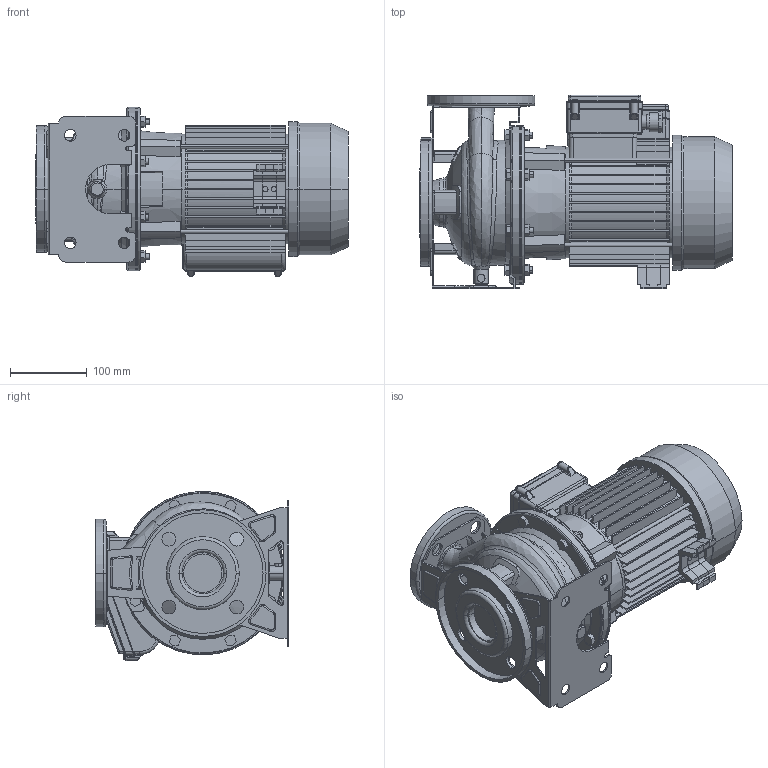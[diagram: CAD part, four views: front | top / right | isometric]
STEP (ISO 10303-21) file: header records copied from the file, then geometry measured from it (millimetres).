
FILE_DESCRIPTION((''),'2;1');
FILE_NAME('3M_32-125_1_1_M_ASM','2016-09-16T',('rosa'),('"Ebara Pumps Europe +39.444.706811"'),'PRO/ENGINEER BY PARAMETRIC TECHNOLOGY CORPORATION, 2012130','PRO/ENGINEER BY PARAMETRIC TECHNOLOGY CORPORATION, 2012130','');
FILE_SCHEMA(('AUTOMOTIVE_DESIGN { 1 0 10303 214 1 1 1 1 }'));
Length unit declared in the file: millimetre
Products named in the file (12): CORPO_32-125_AF0; ASP_32-125; FLANGIA_DIN_50; MAND_32-125; FLANGIA_DIN_32; BASE_3M_32-125; CORPO_SALDATO_32-125_ASM; SUPPORTO_3M_160_90; MEC_90X100_M; SOSTEGNO_72009; COPRIMORSETTIERA_MEC80_90_M; 3M_32-125_1_1_M_ASM
Assembly tree (12 placements, depth 3):
  3M_32-125_1_1_M_ASM
    CORPO_SALDATO_32-125_ASM
      CORPO_32-125_AF0
      ASP_32-125
      FLANGIA_DIN_50
      MAND_32-125
      FLANGIA_DIN_32
      BASE_3M_32-125
    SUPPORTO_3M_160_90
    MEC_90X100_M
    SOSTEGNO_72009  x2
    COPRIMORSETTIERA_MEC80_90_M
Bounding box: 407 x 252 x 220.48 mm (x, y, z)
Volume: 6723538.1 mm3; surface area: 902415.6 mm2
Topology: 14 solids, 14 shells, 1301 faces, 3276 edges, 2055 vertices
Faces by surface type: plane 598, cylinder 436, cone 98, torus 85, bspline 76, sphere 8
Entity records: 55104 total; most frequent: CARTESIAN_POINT 12664, DIRECTION 6442, ORIENTED_EDGE 6368, PRESENTATION_STYLE_ASSIGNMENT 3197, STYLED_ITEM 3197, CURVE_STYLE 3184, EDGE_CURVE 3184, AXIS2_PLACEMENT_3D 2402
